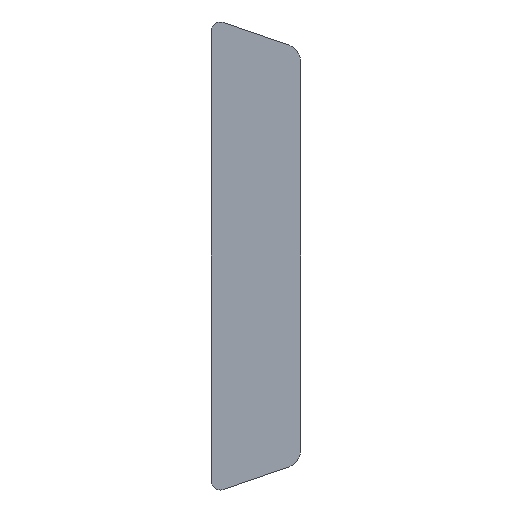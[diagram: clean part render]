
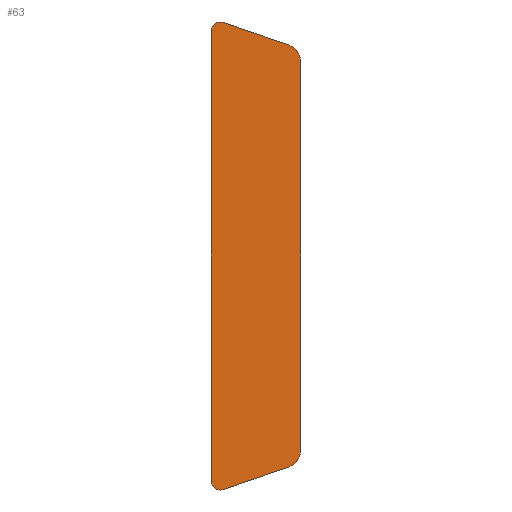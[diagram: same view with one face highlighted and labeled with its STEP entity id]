
A CAD part, front view. The second image highlights one B-rep face of the part: STEP entity #63.
In plain terms, the highlighted planar face has unit normal (0, -1, 0).
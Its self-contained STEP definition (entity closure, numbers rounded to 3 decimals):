
#63=ADVANCED_FACE('',(#91),#92,.F.);
#91=FACE_OUTER_BOUND('',#120,.T.);
#92=PLANE('',#121);
#120=EDGE_LOOP('',(#209,#210,#211,#212,#213,#214,#215,#216,#217,#218,#219,#220));
#121=AXIS2_PLACEMENT_3D('',#221,#222,#223);
#209=ORIENTED_EDGE('',*,*,#275,.F.);
#210=ORIENTED_EDGE('',*,*,#253,.F.);
#211=ORIENTED_EDGE('',*,*,#258,.F.);
#212=ORIENTED_EDGE('',*,*,#260,.F.);
#213=ORIENTED_EDGE('',*,*,#249,.F.);
#214=ORIENTED_EDGE('',*,*,#263,.F.);
#215=ORIENTED_EDGE('',*,*,#265,.F.);
#216=ORIENTED_EDGE('',*,*,#245,.F.);
#217=ORIENTED_EDGE('',*,*,#268,.F.);
#218=ORIENTED_EDGE('',*,*,#270,.F.);
#219=ORIENTED_EDGE('',*,*,#241,.F.);
#220=ORIENTED_EDGE('',*,*,#273,.F.);
#221=CARTESIAN_POINT('',(22.125,-0.001,0.));
#222=DIRECTION('',(0.,1.,0.));
#223=DIRECTION('',(0.,0.,1.0));
#241=EDGE_CURVE('',#276,#279,#280,.T.);
#245=EDGE_CURVE('',#284,#287,#288,.T.);
#249=EDGE_CURVE('',#292,#295,#296,.T.);
#253=EDGE_CURVE('',#300,#303,#304,.T.);
#258=EDGE_CURVE('',#310,#300,#312,.T.);
#260=EDGE_CURVE('',#295,#310,#314,.T.);
#263=EDGE_CURVE('',#317,#292,#319,.T.);
#265=EDGE_CURVE('',#287,#317,#321,.T.);
#268=EDGE_CURVE('',#324,#284,#326,.T.);
#270=EDGE_CURVE('',#279,#324,#328,.T.);
#273=EDGE_CURVE('',#331,#276,#333,.T.);
#275=EDGE_CURVE('',#303,#331,#335,.T.);
#276=VERTEX_POINT('',#336);
#279=VERTEX_POINT('',#340);
#280=CIRCLE('',#341,3.);
#284=VERTEX_POINT('',#346);
#287=VERTEX_POINT('',#350);
#288=CIRCLE('',#351,3.);
#292=VERTEX_POINT('',#356);
#295=VERTEX_POINT('',#360);
#296=CIRCLE('',#361,1.5);
#300=VERTEX_POINT('',#366);
#303=VERTEX_POINT('',#370);
#304=CIRCLE('',#371,1.5);
#310=VERTEX_POINT('',#378);
#312=CIRCLE('',#381,1.5);
#314=LINE('',#384,#385);
#317=VERTEX_POINT('',#388);
#319=CIRCLE('',#391,1.5);
#321=LINE('',#394,#395);
#324=VERTEX_POINT('',#398);
#326=CIRCLE('',#401,3.);
#328=LINE('',#404,#405);
#331=VERTEX_POINT('',#408);
#333=CIRCLE('',#411,3.);
#335=LINE('',#414,#415);
#336=CARTESIAN_POINT('',(29.442,-0.001,34.437));
#340=CARTESIAN_POINT('',(30.,-0.002,32.695));
#341=AXIS2_PLACEMENT_3D('',#417,#418,#419);
#346=CARTESIAN_POINT('',(29.442,-0.001,-34.437));
#350=CARTESIAN_POINT('',(27.977,-0.001,-35.532));
#351=AXIS2_PLACEMENT_3D('',#425,#426,#427);
#356=CARTESIAN_POINT('',(15.629,-0.001,-39.118));
#360=CARTESIAN_POINT('',(15.,-0.001,-37.897));
#361=AXIS2_PLACEMENT_3D('',#433,#434,#435);
#366=CARTESIAN_POINT('',(15.629,-0.001,39.118));
#370=CARTESIAN_POINT('',(16.988,-0.001,39.315));
#371=AXIS2_PLACEMENT_3D('',#441,#442,#443);
#378=CARTESIAN_POINT('',(15.,-0.001,37.897));
#381=AXIS2_PLACEMENT_3D('',#452,#453,#454);
#384=CARTESIAN_POINT('',(15.,-0.001,-37.897));
#385=VECTOR('',#456,1.0);
#388=CARTESIAN_POINT('',(16.988,-0.001,-39.315));
#391=AXIS2_PLACEMENT_3D('',#461,#462,#463);
#394=CARTESIAN_POINT('',(27.977,-0.001,-35.532));
#395=VECTOR('',#465,1.0);
#398=CARTESIAN_POINT('',(30.,-0.002,-32.695));
#401=AXIS2_PLACEMENT_3D('',#470,#471,#472);
#404=CARTESIAN_POINT('',(30.,-0.002,32.695));
#405=VECTOR('',#474,1.0);
#408=CARTESIAN_POINT('',(27.977,-0.001,35.532));
#411=AXIS2_PLACEMENT_3D('',#479,#480,#481);
#414=CARTESIAN_POINT('',(16.988,-0.001,39.315));
#415=VECTOR('',#483,1.0);
#417=CARTESIAN_POINT('',(27.,-0.001,32.695));
#418=DIRECTION('',(0.,1.,0.0));
#419=DIRECTION('',(0.814,0.,0.581));
#425=CARTESIAN_POINT('',(27.,-0.001,-32.695));
#426=DIRECTION('',(0.,1.,0.));
#427=DIRECTION('',(0.814,0.,-0.581));
#433=CARTESIAN_POINT('',(16.5,-0.001,-37.897));
#434=DIRECTION('',(0.,1.,0.));
#435=DIRECTION('',(-0.581,0.,-0.814));
#441=CARTESIAN_POINT('',(16.5,-0.001,37.897));
#442=DIRECTION('',(0.,1.,0.));
#443=DIRECTION('',(-0.581,0.,0.814));
#452=CARTESIAN_POINT('',(16.5,-0.001,37.897));
#453=DIRECTION('',(0.,1.,0.));
#454=DIRECTION('',(-0.581,0.,0.814));
#456=DIRECTION('',(0.,0.0,1.0));
#461=CARTESIAN_POINT('',(16.5,-0.001,-37.897));
#462=DIRECTION('',(0.,1.,0.));
#463=DIRECTION('',(-0.581,0.,-0.814));
#465=DIRECTION('',(-0.946,0.,-0.326));
#470=CARTESIAN_POINT('',(27.,-0.001,-32.695));
#471=DIRECTION('',(0.,1.,0.));
#472=DIRECTION('',(0.814,0.,-0.581));
#474=DIRECTION('',(0.,0.,-1.0));
#479=CARTESIAN_POINT('',(27.,-0.001,32.695));
#480=DIRECTION('',(0.,1.,0.0));
#481=DIRECTION('',(0.814,0.,0.581));
#483=DIRECTION('',(0.946,0.,-0.326));
